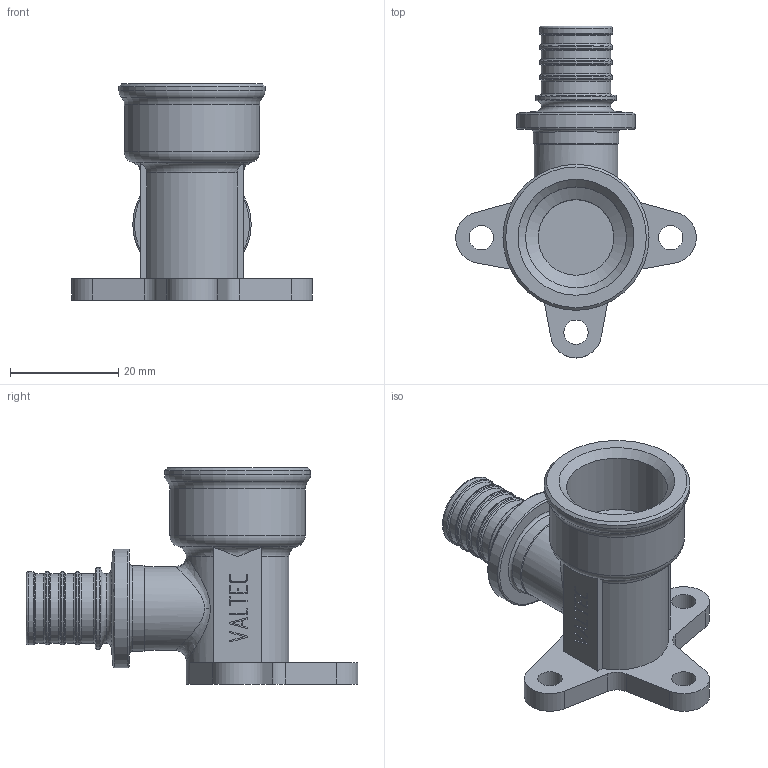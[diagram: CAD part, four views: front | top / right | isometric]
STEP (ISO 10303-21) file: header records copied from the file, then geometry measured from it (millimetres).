
FILE_DESCRIPTION(('STEP AP203'), '1');
FILE_NAME('ﾂﾐ.731244.002 - VTm.454.G.001604 ﾂ鮏ⅱ鰀. 浯葢', '2024-01-24T07:19:16', ('Boss'), (''), 'C3D Converter', 'C3D Toolkit', '');
FILE_SCHEMA(('CONFIG_CONTROL_DESIGN'));
Length unit declared in the file: millimetre
Products named in the file (1): ВР.731244.002
Bounding box: 44.49 x 61.35 x 40 mm (x, y, z)
Volume: 11696.6 mm3; surface area: 9426.7 mm2
Topology: 1 solids, 1 shells, 318 faces, 857 edges, 557 vertices
Faces by surface type: extrusion 142, plane 113, torus 27, cylinder 27, cone 6, bspline 3
Full cylindrical faces by diameter (mm): 4.5 x3, 10 x1, 12.8 x4, 13.5 x4, 14 x1, 15 x1, 15.5 x1, 15.8 x1, 18.632 x1, 21.9 x1, 25 x1, 27 x1
Entity records: 11089 total; most frequent: CARTESIAN_POINT 3837, ORIENTED_EDGE 1604, DIRECTION 1068, EDGE_CURVE 802, VECTOR 562, VERTEX_POINT 556, B_SPLINE_CURVE_WITH_KNOTS 445, LINE 420
